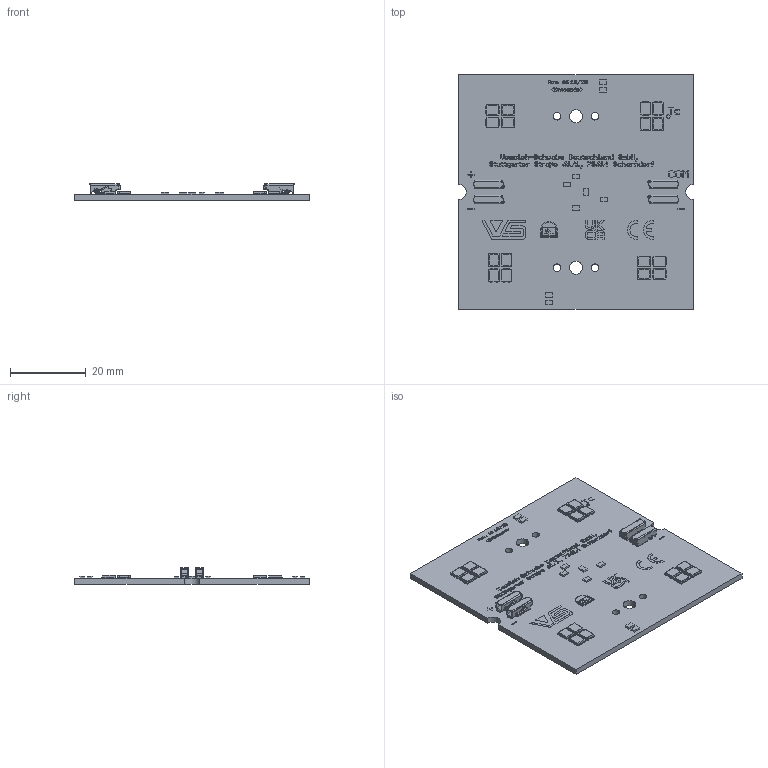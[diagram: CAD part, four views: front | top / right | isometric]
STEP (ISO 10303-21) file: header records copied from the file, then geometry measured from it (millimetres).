
FILE_DESCRIPTION(('Creo Elements/Direct Modeling STEP Export'),'2;1');
FILE_NAME('3D-Model_WU-M-709_White.stp','2023-07-07T14:50:00',(''),(''),'PTC Creo Elements/Direct Modeling STEP processor for AP214 (Solid Model)','PTC Creo Elements/Direct Modeling 19.0E 27-Jun-2016 (C) Parametric Technology GmbH','');
FILE_SCHEMA(('AUTOMOTIVE_DESIGN { 1 0 10303 214 1 1 1 1 }'));
Length unit declared in the file: millimetre
Products named in the file (51): p1.1; p1; otp_001.prt; otp_002.prt.1; otp_003.prt.1.1; otp_004.prt.2; otp_005.prt.2.1; otp_006.prt.3; otp_007.prt.4; otp_008.prt.4.1; otp_009.prt.5; otp_01010.stp; Kone4512.prt; kone0101.prt.1; Kone548.prt.2; Kone548.prt.2.1; Kone1111.stp; Dioda_LED01.2.2.1; Dioda_LED01.2.2; Dioda_LED01.2.1; Dioda_LED01.2; Dioda_LED01.1.1.2.1.2.1.1.1; Dioda_LED01.1.1.2.1.2.1.1; Dioda_LED01.1.1.2.1.2.1; Dioda_LED01.1.1.2.1.2; Dioda_LED01.1.1.2.1.1.1; Dioda_LED01.1.1.2.1.1; Dioda_LED01.1.1.2.1; Dioda_LED01.1.1.2; Dioda_LED01.1.1.1; Dioda_LED01.1.1; Dioda_LED01.1; Dioda_LED01; Baza_WU-M-709
Assembly tree (30 placements, depth 2):
  p1.1
  p1
  otp_01010.stp
    otp_009.prt.5
    otp_008.prt.4.1
    otp_007.prt.4
    otp_006.prt.3
    otp_005.prt.2.1
    otp_004.prt.2
    otp_003.prt.1.1
    otp_002.prt.1
    otp_001.prt
  Kone1111.stp
    Kone548.prt.2.1
    Kone548.prt.2
    kone0101.prt.1
    Kone4512.prt
  Dioda_LED01.2.2.1
    Dioda_LED01.2.2.1
Bounding box: 62 x 62 x 4.3 mm (x, y, z)
Volume: 6263.3 mm3; surface area: 9186.9 mm2
Topology: 30 solids, 30 shells, 4498 faces, 12634 edges, 8374 vertices
Faces by surface type: plane 3317, cylinder 1181
Entity records: 175698 total; most frequent: CARTESIAN_POINT 25518, ORIENTED_EDGE 25268, DIRECTION 23922, EDGE_CURVE 12634, VECTOR 10134, LINE 10134, VERTEX_POINT 8374, AXIS2_PLACEMENT_3D 6894
